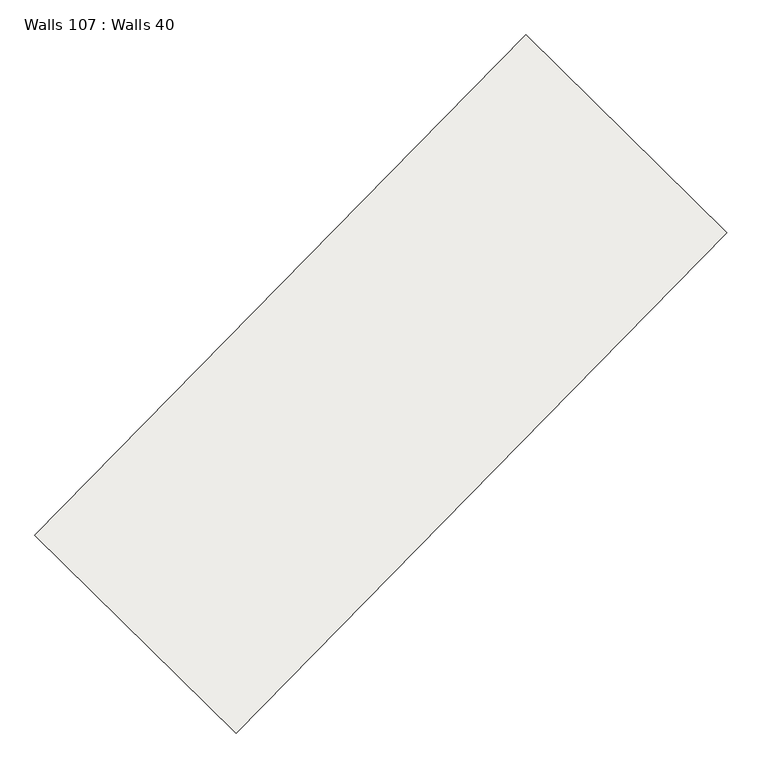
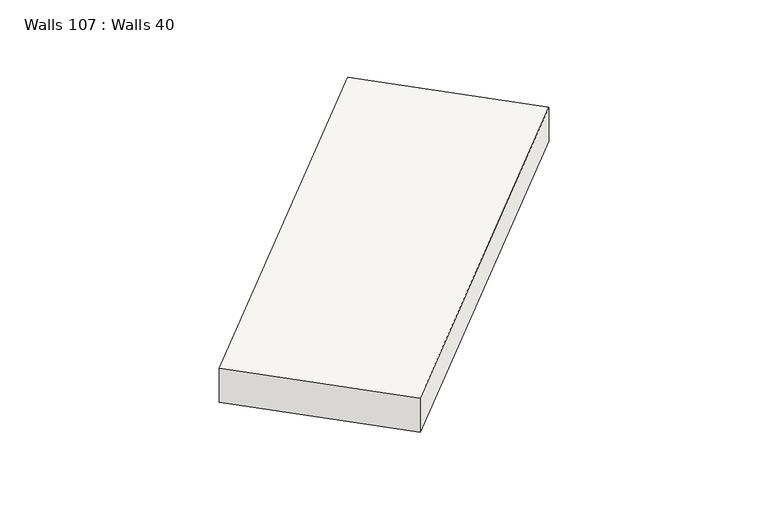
"""IFC4 building model written with IfcOpenShell, lengths in millimetres: slab geometry, Walls 107 : Walls 40."""

from ifc_helpers import new_model, si_unit, origin, place, context, project, spatial, faceted_brep, source, transform, mapped, element, save


def walls_107_walls_40_b9f447ec(model_context):
    return source(origin(), model_context, "Body", "Brep", [
        faceted_brep([(-146268.0801742, -308252.2839597, 635970.0), (-146268.0801742, -308252.2839597, 636670.0), (-148766.1567493, -305800.8326774, 636670.0), (-148766.1567493, -305800.8326774, 635970.0), (-140174.5387883, -302042.7144593, 636060.0), (-142672.6153635, -299591.263177, 636060.0), (-142672.6153635, -299591.263177, 636760.0), (-140174.5387883, -302042.7144593, 636760.0)], [[[0, 1, 2, 3]], [[4, 5, 6, 7]], [[7, 6, 2, 1]], [[6, 5, 3, 2]], [[5, 4, 0, 3]], [[4, 7, 1, 0]]]),
    ])


if __name__ == "__main__":
    model = new_model("IFC4")
    model_context = context("Model", 3, world=origin())
    ifc_project = project(units=[si_unit("LENGTHUNIT", "METRE", prefix="MILLI")], contexts=[model_context])
    site = spatial("IfcSite", under=ifc_project)
    building = spatial("IfcBuilding", under=site)
    placement = place(None, origin())
    walls_107_walls_40_shape = walls_107_walls_40_b9f447ec(model_context)
    element("IfcSlab", 1, ObjectType="Walls 107 : Walls 40", at=placement, inside=building, context=model_context, shape_type="MappedRepresentation", body=[
        mapped(walls_107_walls_40_shape, transform((0.0, 0.0, 0.0), x_axis=(1.0, 0.0, 0.0), y_axis=(0.0, 1.0, 0.0), z_axis=(0.0, 0.0, 1.0))),
    ])
    save(model, "model.ifc")
